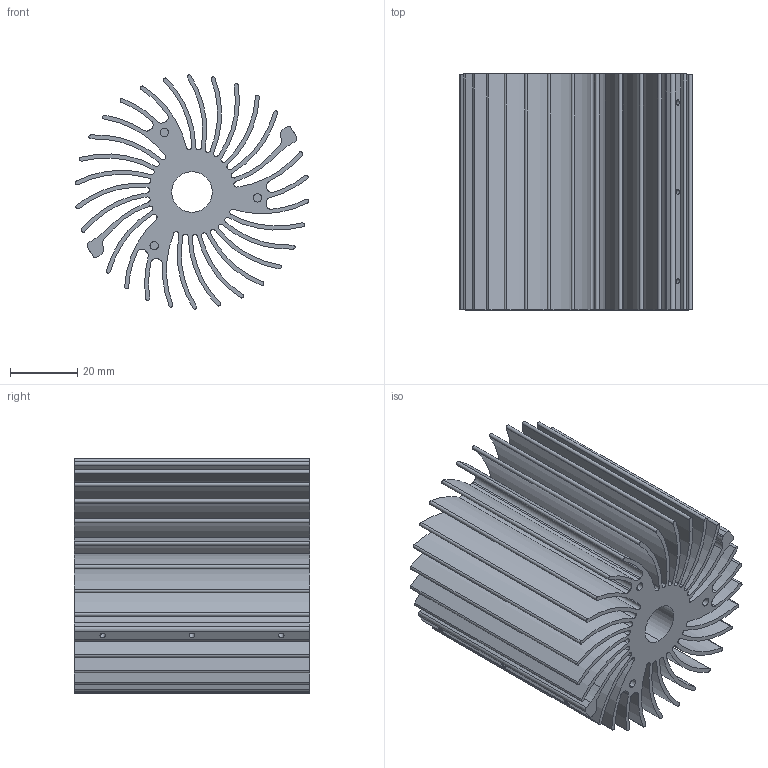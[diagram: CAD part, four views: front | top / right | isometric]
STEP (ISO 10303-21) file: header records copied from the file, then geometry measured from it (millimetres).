
FILE_DESCRIPTION((''),'2;1');
FILE_NAME('X00727-REVB','2012-06-04T',('Jonah'),(''),'PRO/ENGINEER BY PARAMETRIC TECHNOLOGY CORPORATION, 2010230','PRO/ENGINEER BY PARAMETRIC TECHNOLOGY CORPORATION, 2010230','');
FILE_SCHEMA(('CONFIG_CONTROL_DESIGN'));
Length unit declared in the file: millimetre
Products named in the file (1): X00727-REVB
Bounding box: 69.31 x 70 x 69.51 mm (x, y, z)
Volume: 98377.6 mm3; surface area: 100941.1 mm2
Topology: 1 solids, 1 shells, 207 faces, 612 edges, 408 vertices
Faces by surface type: cylinder 178, plane 29
Entity records: 7325 total; most frequent: CARTESIAN_POINT 1446, DIRECTION 1334, ORIENTED_EDGE 1224, EDGE_CURVE 612, AXIS2_PLACEMENT_3D 557, VERTEX_POINT 408, CIRCLE 350, EDGE_LOOP 226
